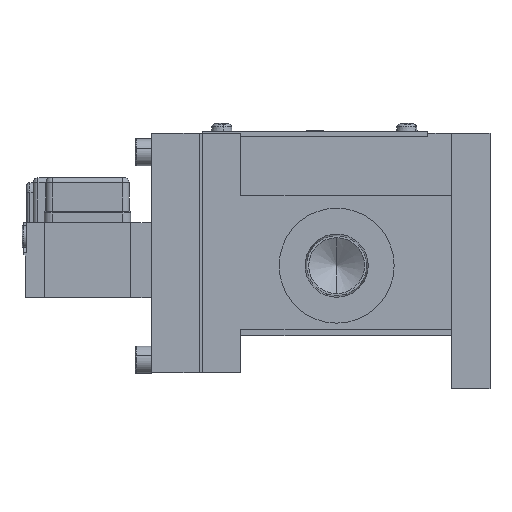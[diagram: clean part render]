
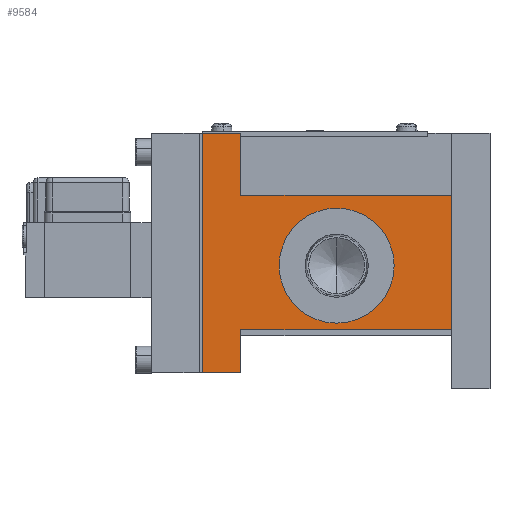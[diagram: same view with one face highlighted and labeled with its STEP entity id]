
A CAD part, left-side view. The second image highlights one B-rep face of the part: STEP entity #9584.
In plain terms, the highlighted planar face has unit normal (-1, 0, 0).
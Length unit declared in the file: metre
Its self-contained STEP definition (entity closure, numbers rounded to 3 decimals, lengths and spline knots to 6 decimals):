
#86 = LINE ( 'NONE', #7457, #464 ) ;
#190 = VERTEX_POINT ( 'NONE', #11423 ) ;
#197 = ORIENTED_EDGE ( 'NONE', *, *, #4479, .T. ) ;
#311 = FACE_OUTER_BOUND ( 'NONE', #6300, .T. ) ;
#404 = CARTESIAN_POINT ( 'NONE',  ( -0.0325, 0.09, -0.0335 ) ) ;
#443 = AXIS2_PLACEMENT_3D ( 'NONE', #965, #879, #1024 ) ;
#464 = VECTOR ( 'NONE', #7466, 1. ) ;
#879 = DIRECTION ( 'NONE',  ( -1., 0., 0. ) ) ;
#944 = PLANE ( 'NONE',  #443 ) ;
#965 = CARTESIAN_POINT ( 'NONE',  ( -0.0325, 0.012, -0.0335 ) ) ;
#1024 = DIRECTION ( 'NONE',  ( 0., 0., 1. ) ) ;
#1104 = FACE_BOUND ( 'NONE', #9462, .T. ) ;
#1199 = LINE ( 'NONE', #6871, #7516 ) ;
#1466 = CARTESIAN_POINT ( 'NONE',  ( -0.0325, 0.012, -0.0385 ) ) ;
#1481 = EDGE_CURVE ( 'NONE', #8470, #190, #7255, .T. ) ;
#1557 = DIRECTION ( 'NONE',  ( 0., 0., -1. ) ) ;
#2464 = EDGE_CURVE ( 'NONE', #6510, #14234, #10556, .T. ) ;
#2839 = CARTESIAN_POINT ( 'NONE',  ( -0.0325, 0.078, -0.0335 ) ) ;
#3071 = DIRECTION ( 'NONE',  ( 0., -1., 0. ) ) ;
#3134 = VECTOR ( 'NONE', #5279, 1. ) ;
#3249 = ORIENTED_EDGE ( 'NONE', *, *, #9638, .F. ) ;
#3549 = VECTOR ( 'NONE', #5164, 1. ) ;
#3597 = CIRCLE ( 'NONE', #13859, 0.018 ) ;
#3880 = CARTESIAN_POINT ( 'NONE',  ( -0.0325, 0.051, -0.0335 ) ) ;
#4241 = CARTESIAN_POINT ( 'NONE',  ( -0.0325, 0.09, 0.0415 ) ) ;
#4407 = CARTESIAN_POINT ( 'NONE',  ( -0.0325, 0.078, 0.004 ) ) ;
#4479 = EDGE_CURVE ( 'NONE', #12462, #14730, #6883, .T. ) ;
#4567 = DIRECTION ( 'NONE',  ( 0., 0., 1. ) ) ;
#5164 = DIRECTION ( 'NONE',  ( 0., -1., 0. ) ) ;
#5219 = ORIENTED_EDGE ( 'NONE', *, *, #12644, .T. ) ;
#5227 = CARTESIAN_POINT ( 'NONE',  ( -0.0325, 0.051, 0.0415 ) ) ;
#5279 = DIRECTION ( 'NONE',  ( 0., 1., 0. ) ) ;
#5785 = VERTEX_POINT ( 'NONE', #15668 ) ;
#5833 = VERTEX_POINT ( 'NONE', #16037 ) ;
#6223 = ORIENTED_EDGE ( 'NONE', *, *, #1481, .T. ) ;
#6300 = EDGE_LOOP ( 'NONE', ( #5219, #13572, #13980, #12153, #3249, #6223, #6867, #197 ) ) ;
#6510 = VERTEX_POINT ( 'NONE', #2839 ) ;
#6539 = VECTOR ( 'NONE', #7831, 1. ) ;
#6688 = VERTEX_POINT ( 'NONE', #404 ) ;
#6737 = CARTESIAN_POINT ( 'NONE',  ( -0.0325, 0.078, 0.0415 ) ) ;
#6867 = ORIENTED_EDGE ( 'NONE', *, *, #10397, .T. ) ;
#6871 = CARTESIAN_POINT ( 'NONE',  ( -0.0325, 0.012, -0.02 ) ) ;
#6883 = LINE ( 'NONE', #5227, #3134 ) ;
#6945 = LINE ( 'NONE', #12231, #6539 ) ;
#7158 = VECTOR ( 'NONE', #4567, 1. ) ;
#7189 = DIRECTION ( 'NONE',  ( 0., 1., 0. ) ) ;
#7255 = LINE ( 'NONE', #13438, #10646 ) ;
#7457 = CARTESIAN_POINT ( 'NONE',  ( -0.0325, 0.078, 0.004 ) ) ;
#7466 = DIRECTION ( 'NONE',  ( 0., 0., 1. ) ) ;
#7516 = VECTOR ( 'NONE', #3071, 1. ) ;
#7831 = DIRECTION ( 'NONE',  ( 0., 0., -1. ) ) ;
#8441 = CARTESIAN_POINT ( 'NONE',  ( -0.0325, 0.048, -0.018 ) ) ;
#8470 = VERTEX_POINT ( 'NONE', #13625 ) ;
#9255 = LINE ( 'NONE', #1466, #15416 ) ;
#9462 = EDGE_LOOP ( 'NONE', ( #12758, #10895 ) ) ;
#9584 = ADVANCED_FACE ( 'NONE', ( #1104, #311 ), #944, .T. ) ;
#9638 = EDGE_CURVE ( 'NONE', #8470, #5785, #9255, .T. ) ;
#9753 = AXIS2_PLACEMENT_3D ( 'NONE', #10599, #10630, #10648 ) ;
#10397 = EDGE_CURVE ( 'NONE', #190, #12462, #86, .T. ) ;
#10556 = LINE ( 'NONE', #4407, #7158 ) ;
#10599 = CARTESIAN_POINT ( 'NONE',  ( -0.0325, 0.048, 0. ) ) ;
#10630 = DIRECTION ( 'NONE',  ( 1., 0., 0. ) ) ;
#10646 = VECTOR ( 'NONE', #7189, 1. ) ;
#10648 = DIRECTION ( 'NONE',  ( 0., 0., -1. ) ) ;
#10895 = ORIENTED_EDGE ( 'NONE', *, *, #12528, .T. ) ;
#11145 = CIRCLE ( 'NONE', #9753, 0.018 ) ;
#11423 = CARTESIAN_POINT ( 'NONE',  ( -0.0325, 0.078, 0.022 ) ) ;
#12090 = CARTESIAN_POINT ( 'NONE',  ( -0.0325, 0.048, 0. ) ) ;
#12109 = DIRECTION ( 'NONE',  ( 1., 0., 0. ) ) ;
#12120 = DIRECTION ( 'NONE',  ( 0., 0., -1. ) ) ;
#12153 = ORIENTED_EDGE ( 'NONE', *, *, #15403, .T. ) ;
#12231 = CARTESIAN_POINT ( 'NONE',  ( -0.0325, 0.09, 0.004 ) ) ;
#12462 = VERTEX_POINT ( 'NONE', #6737 ) ;
#12528 = EDGE_CURVE ( 'NONE', #5833, #16061, #11145, .T. ) ;
#12619 = EDGE_CURVE ( 'NONE', #16061, #5833, #3597, .T. ) ;
#12644 = EDGE_CURVE ( 'NONE', #14730, #6688, #6945, .T. ) ;
#12758 = ORIENTED_EDGE ( 'NONE', *, *, #12619, .T. ) ;
#13438 = CARTESIAN_POINT ( 'NONE',  ( -0.0325, 0.012, 0.022 ) ) ;
#13572 = ORIENTED_EDGE ( 'NONE', *, *, #15678, .T. ) ;
#13586 = LINE ( 'NONE', #3880, #3549 ) ;
#13625 = CARTESIAN_POINT ( 'NONE',  ( -0.0325, 0.012, 0.022 ) ) ;
#13859 = AXIS2_PLACEMENT_3D ( 'NONE', #12090, #12109, #12120 ) ;
#13980 = ORIENTED_EDGE ( 'NONE', *, *, #2464, .T. ) ;
#14234 = VERTEX_POINT ( 'NONE', #14818 ) ;
#14730 = VERTEX_POINT ( 'NONE', #4241 ) ;
#14818 = CARTESIAN_POINT ( 'NONE',  ( -0.0325, 0.078, -0.02 ) ) ;
#15403 = EDGE_CURVE ( 'NONE', #14234, #5785, #1199, .T. ) ;
#15416 = VECTOR ( 'NONE', #1557, 1. ) ;
#15668 = CARTESIAN_POINT ( 'NONE',  ( -0.0325, 0.012, -0.02 ) ) ;
#15678 = EDGE_CURVE ( 'NONE', #6688, #6510, #13586, .T. ) ;
#16037 = CARTESIAN_POINT ( 'NONE',  ( -0.0325, 0.048, 0.018 ) ) ;
#16061 = VERTEX_POINT ( 'NONE', #8441 ) ;
